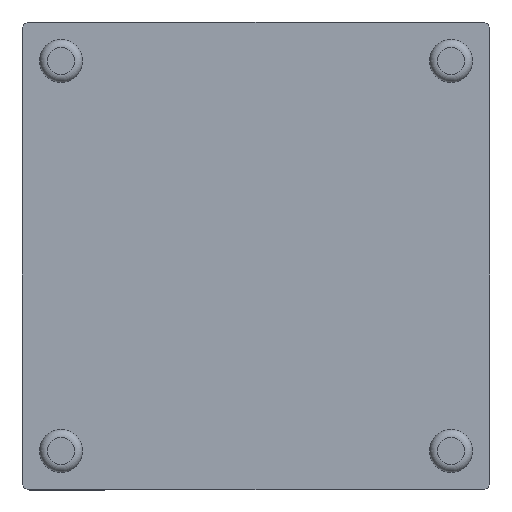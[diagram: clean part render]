
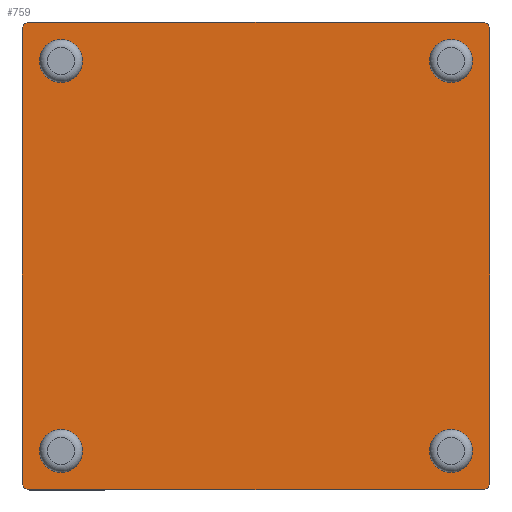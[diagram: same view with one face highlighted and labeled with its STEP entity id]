
A CAD part, top view. The second image highlights one B-rep face of the part: STEP entity #759.
In plain terms, the highlighted planar face has unit normal (0, 0, 1).
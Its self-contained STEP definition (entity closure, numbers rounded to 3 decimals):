
#101=CARTESIAN_POINT('',(-39.258,6.993,3.2));
#102=VERTEX_POINT('',#101);
#103=CARTESIAN_POINT('',(-42.008,6.993,3.2));
#104=DIRECTION('',(0.0,0.0,-1.0));
#105=DIRECTION('',(-1.0,0.0,0.0));
#106=AXIS2_PLACEMENT_3D('',#103,#104,#105);
#107=CIRCLE('',#106,2.75);
#108=EDGE_CURVE('',#102,#102,#107,.T.);
#158=CARTESIAN_POINT('',(10.742,6.993,3.2));
#159=VERTEX_POINT('',#158);
#160=CARTESIAN_POINT('',(7.992,6.993,3.2));
#161=DIRECTION('',(0.0,0.0,-1.0));
#162=DIRECTION('',(-1.0,0.0,0.0));
#163=AXIS2_PLACEMENT_3D('',#160,#161,#162);
#164=CIRCLE('',#163,2.75);
#165=EDGE_CURVE('',#159,#159,#164,.T.);
#215=CARTESIAN_POINT('',(10.742,-43.007,3.2));
#216=VERTEX_POINT('',#215);
#217=CARTESIAN_POINT('',(7.992,-43.007,3.2));
#218=DIRECTION('',(0.0,0.0,-1.0));
#219=DIRECTION('',(-1.0,0.0,0.0));
#220=AXIS2_PLACEMENT_3D('',#217,#218,#219);
#221=CIRCLE('',#220,2.75);
#222=EDGE_CURVE('',#216,#216,#221,.T.);
#272=CARTESIAN_POINT('',(-39.258,-43.007,3.2));
#273=VERTEX_POINT('',#272);
#274=CARTESIAN_POINT('',(-42.008,-43.007,3.2));
#275=DIRECTION('',(0.0,0.0,-1.0));
#276=DIRECTION('',(-1.0,0.0,0.0));
#277=AXIS2_PLACEMENT_3D('',#274,#275,#276);
#278=CIRCLE('',#277,2.75);
#279=EDGE_CURVE('',#273,#273,#278,.T.);
#530=CARTESIAN_POINT('',(12.992,-47.007,3.2));
#531=VERTEX_POINT('',#530);
#538=CARTESIAN_POINT('',(11.992,-48.007,3.2));
#539=VERTEX_POINT('',#538);
#540=CARTESIAN_POINT('',(11.992,-47.007,3.2));
#541=DIRECTION('',(0.0,0.0,-1.0));
#542=DIRECTION('',(0.0,-1.0,0.0));
#543=AXIS2_PLACEMENT_3D('',#540,#541,#542);
#544=CIRCLE('',#543,1.);
#545=EDGE_CURVE('',#531,#539,#544,.T.);
#562=CARTESIAN_POINT('',(12.992,10.993,3.2));
#563=VERTEX_POINT('',#562);
#570=CARTESIAN_POINT('',(12.992,10.993,3.2));
#571=DIRECTION('',(0.0,-1.0,0.0));
#572=VECTOR('',#571,58.);
#573=LINE('',#570,#572);
#574=EDGE_CURVE('',#563,#531,#573,.T.);
#586=CARTESIAN_POINT('',(11.992,11.993,3.2));
#587=VERTEX_POINT('',#586);
#594=CARTESIAN_POINT('',(11.992,10.993,3.2));
#595=DIRECTION('',(0.0,0.0,-1.0));
#596=DIRECTION('',(1.0,0.0,0.0));
#597=AXIS2_PLACEMENT_3D('',#594,#595,#596);
#598=CIRCLE('',#597,1.);
#599=EDGE_CURVE('',#587,#563,#598,.T.);
#611=CARTESIAN_POINT('',(-46.008,11.993,3.2));
#612=VERTEX_POINT('',#611);
#619=CARTESIAN_POINT('',(-46.008,11.993,3.2));
#620=DIRECTION('',(1.0,0.0,0.0));
#621=VECTOR('',#620,58.);
#622=LINE('',#619,#621);
#623=EDGE_CURVE('',#612,#587,#622,.T.);
#648=CARTESIAN_POINT('',(-46.008,-48.007,3.2));
#649=VERTEX_POINT('',#648);
#650=CARTESIAN_POINT('',(11.992,-48.007,3.2));
#651=DIRECTION('',(-1.0,0.0,0.0));
#652=VECTOR('',#651,58.);
#653=LINE('',#650,#652);
#654=EDGE_CURVE('',#539,#649,#653,.T.);
#672=CARTESIAN_POINT('',(-47.008,-47.007,3.2));
#673=VERTEX_POINT('',#672);
#674=CARTESIAN_POINT('',(-46.008,-47.007,3.2));
#675=DIRECTION('',(0.0,0.0,-1.0));
#676=DIRECTION('',(-1.0,0.0,0.0));
#677=AXIS2_PLACEMENT_3D('',#674,#675,#676);
#678=CIRCLE('',#677,1.);
#679=EDGE_CURVE('',#649,#673,#678,.T.);
#697=CARTESIAN_POINT('',(-47.008,10.993,3.2));
#698=VERTEX_POINT('',#697);
#699=CARTESIAN_POINT('',(-47.008,-47.007,3.2));
#700=DIRECTION('',(0.0,1.0,0.0));
#701=VECTOR('',#700,58.);
#702=LINE('',#699,#701);
#703=EDGE_CURVE('',#673,#698,#702,.T.);
#721=CARTESIAN_POINT('',(-46.008,10.993,3.2));
#722=DIRECTION('',(0.0,0.0,-1.0));
#723=DIRECTION('',(0.0,1.0,0.0));
#724=AXIS2_PLACEMENT_3D('',#721,#722,#723);
#725=CIRCLE('',#724,1.);
#726=EDGE_CURVE('',#698,#612,#725,.T.);
#732=CARTESIAN_POINT('',(-17.008,-18.007,3.2));
#733=DIRECTION('',(0.0,0.0,1.0));
#734=DIRECTION('',(1.0,0.0,0.0));
#735=AXIS2_PLACEMENT_3D('',#732,#733,#734);
#736=PLANE('',#735);
#737=ORIENTED_EDGE('',*,*,#623,.F.);
#738=ORIENTED_EDGE('',*,*,#726,.F.);
#739=ORIENTED_EDGE('',*,*,#703,.F.);
#740=ORIENTED_EDGE('',*,*,#679,.F.);
#741=ORIENTED_EDGE('',*,*,#654,.F.);
#742=ORIENTED_EDGE('',*,*,#545,.F.);
#743=ORIENTED_EDGE('',*,*,#574,.F.);
#744=ORIENTED_EDGE('',*,*,#599,.F.);
#745=EDGE_LOOP('',(#737,#738,#739,#740,#741,#742,#743,#744));
#746=FACE_OUTER_BOUND('',#745,.T.);
#747=ORIENTED_EDGE('',*,*,#279,.T.);
#748=EDGE_LOOP('',(#747));
#749=FACE_BOUND('',#748,.T.);
#750=ORIENTED_EDGE('',*,*,#222,.T.);
#751=EDGE_LOOP('',(#750));
#752=FACE_BOUND('',#751,.T.);
#753=ORIENTED_EDGE('',*,*,#165,.T.);
#754=EDGE_LOOP('',(#753));
#755=FACE_BOUND('',#754,.T.);
#756=ORIENTED_EDGE('',*,*,#108,.T.);
#757=EDGE_LOOP('',(#756));
#758=FACE_BOUND('',#757,.T.);
#759=ADVANCED_FACE('',(#746,#749,#752,#755,#758),#736,.T.);
